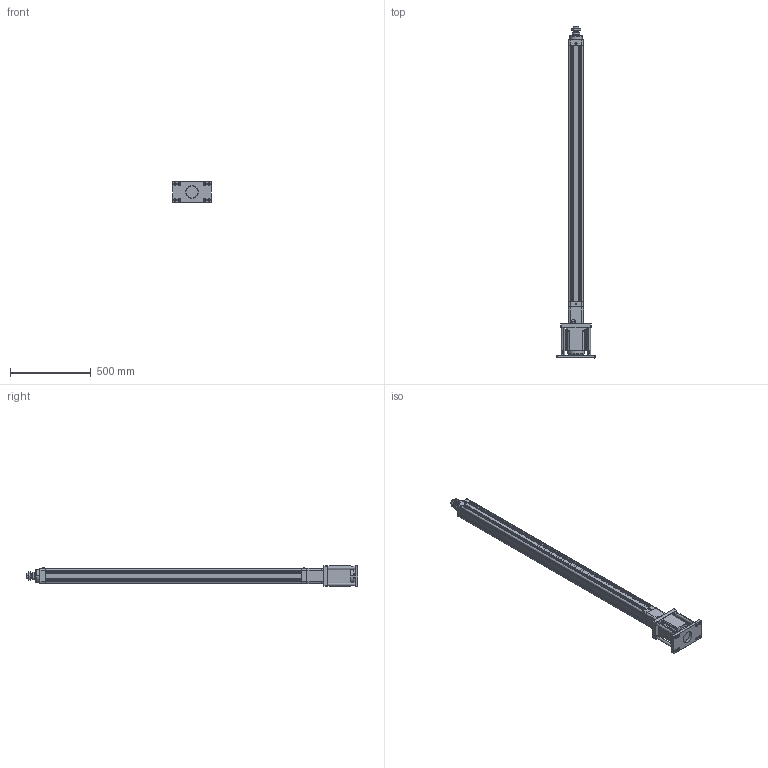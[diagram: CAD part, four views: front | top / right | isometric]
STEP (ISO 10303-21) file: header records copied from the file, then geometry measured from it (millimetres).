
FILE_DESCRIPTION((''),'2;1');
FILE_NAME('HE80-D-P_ASM','2020-04-23T',('ASUS20200'),(''),'CREO PARAMETRIC BY PTC INC, 2014190','CREO PARAMETRIC BY PTC INC, 2014190','');
FILE_SCHEMA(('CONFIG_CONTROL_DESIGN'));
Length unit declared in the file: millimetre
Products named in the file (25): HE80-D-P-001-X1; HE80-D-P-002-X1; HE80-D-P-003-X1; 30304J; YZ-M6X1; SLM-01; JDB506030; HE80-100-D-P-X1_ASM; HE80-D-009-X1; HE80-D-010-X1-130N; M10X110; SKT-20; M8X20; 130ST-M10010; JX6X6X40; TD-8; M8X40; HE80-D-P-005-X1; HE80-D-P-004-X1; HE80-D-P-008-X1; LGLM-M10-25; HE80-FB-LG; F-HE80FB; M10X30; HE80-D-P_ASM
Assembly tree (51 placements, depth 3):
  HE80-D-P_ASM
    HE80-100-D-P-X1_ASM
      HE80-D-P-001-X1
      HE80-D-P-002-X1
      HE80-D-P-003-X1
      30304J  x2
      YZ-M6X1
      SLM-01
      JDB506030
    HE80-D-009-X1
    HE80-D-010-X1-130N
    M10X110  x4
    SKT-20  x2
    M8X20  x4
    130ST-M10010
    JX6X6X40
    TD-8  x4
    M8X40  x4
    HE80-D-P-005-X1
    HE80-D-P-004-X1
    HE80-D-P-008-X1
    LGLM-M10-25  x4
    HE80-FB-LG  x4
    F-HE80FB
    M10X30  x8
Bounding box: 240 x 2057 x 130.01 mm (x, y, z)
Volume: 8676069.7 mm3; surface area: 2430311.8 mm2
Topology: 50 solids, 81 shells, 2059 faces, 4715 edges, 2878 vertices
Faces by surface type: plane 710, cone 598, cylinder 591, torus 126, sphere 30, bspline 4
Entity records: 42369 total; most frequent: CARTESIAN_POINT 8017, DIRECTION 7694, ORIENTED_EDGE 6504, EDGE_CURVE 3299, AXIS2_PLACEMENT_3D 3018, VERTEX_POINT 2014, EDGE_LOOP 1695, VECTOR 1658
